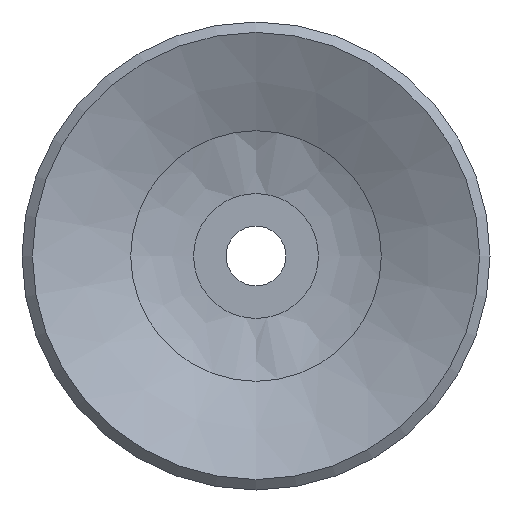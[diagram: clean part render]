
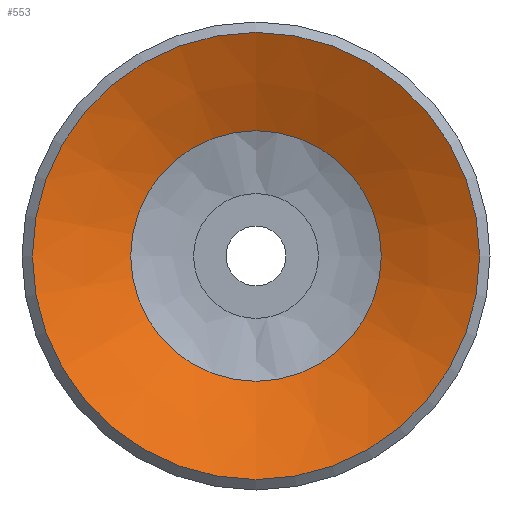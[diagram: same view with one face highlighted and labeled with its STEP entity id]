
A CAD part, front view. The second image highlights one B-rep face of the part: STEP entity #553.
In plain terms, the highlighted conical face has half-angle 65.056 degrees and reference radius 3.2 mm.
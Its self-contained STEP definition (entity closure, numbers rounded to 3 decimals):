
#553=ADVANCED_FACE('',(#849,#850),#851,.F.);
#849=FACE_BOUND('',#1222,.T.);
#850=FACE_OUTER_BOUND('',#1223,.T.);
#851=CONICAL_SURFACE('',#1224,3.2,1.135);
#1222=EDGE_LOOP('',(#2245));
#1223=EDGE_LOOP('',(#2246));
#1224=AXIS2_PLACEMENT_3D('',#2247,#2248,#2249);
#2245=ORIENTED_EDGE('',*,*,#2737,.T.);
#2246=ORIENTED_EDGE('',*,*,#2736,.T.);
#2247=CARTESIAN_POINT('',(0.0,7.896,0.0));
#2248=DIRECTION('',(-0.0,-1.0,0.));
#2249=DIRECTION('',(0.0,0.,-1.0));
#2736=EDGE_CURVE('',#3122,#3122,#3123,.T.);
#2737=EDGE_CURVE('',#3124,#3124,#3125,.T.);
#3122=VERTEX_POINT('',#3916);
#3123=CIRCLE('',#3917,7.5);
#3124=VERTEX_POINT('',#3918);
#3125=CIRCLE('',#3919,4.203);
#3916=CARTESIAN_POINT('',(0.0,5.896,-7.5));
#3917=AXIS2_PLACEMENT_3D('',#4649,#4650,#4651);
#3918=CARTESIAN_POINT('',(0.0,7.43,-4.203));
#3919=AXIS2_PLACEMENT_3D('',#4652,#4653,#4654);
#4649=CARTESIAN_POINT('',(0.0,5.896,0.0));
#4650=DIRECTION('',(0.0,-1.0,0.));
#4651=DIRECTION('',(0.0,0.,-1.0));
#4652=CARTESIAN_POINT('',(0.0,7.43,0.0));
#4653=DIRECTION('',(0.0,1.0,0.));
#4654=DIRECTION('',(0.0,0.,-1.0));
